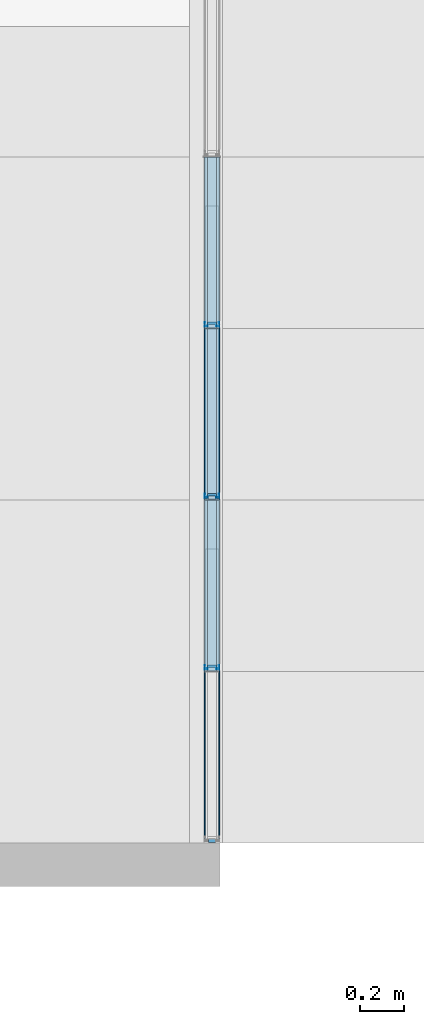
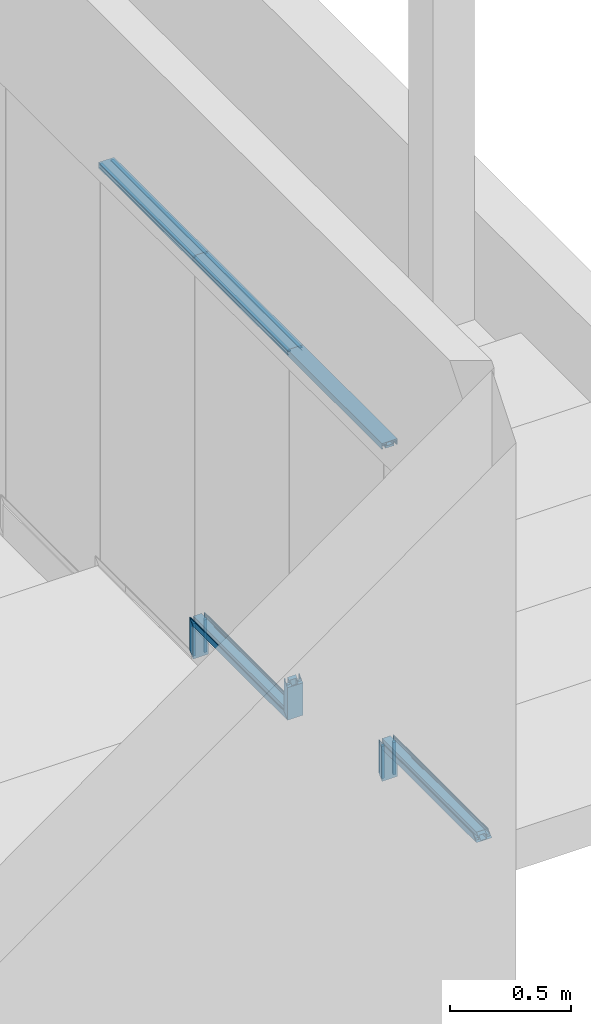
# One storey, part 21 of 65: 16 building element parts, 9 elements without a shape of their own.
"""IFC2X3 building model written with IfcOpenShell, lengths in millimetres."""

from ifc_helpers import new_model, entity, si_unit, converted_unit, derived_unit, money_unit, direction, frame, origin_with_axes, place, context, subcontext, project, spatial, faceted_brep, source, transform, mapped, material, type_object, element, aggregate, save


model = new_model("IFC2X3")

# Units and contexts
model_context = context("Model", 3, precision=0.01, world=origin_with_axes(), true_north=direction((0.0, 1.0)))
body_context = subcontext(model_context, "Body", "Model", "MODEL_VIEW")
ifc_project = project(units=[si_unit("LENGTHUNIT", "METRE", prefix="MILLI"), si_unit("AREAUNIT", "SQUARE_METRE"), si_unit("VOLUMEUNIT", "CUBIC_METRE"), converted_unit("PLANEANGLEUNIT", "DEGREE", entity("IfcPlaneAngleMeasure", 0.0174532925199), si_unit("PLANEANGLEUNIT", "RADIAN"), dimensions=[0, 0, 0, 0, 0, 0, 0]), si_unit("SOLIDANGLEUNIT", "STERADIAN"), money_unit("EUR"), converted_unit("TIMEUNIT", "Year", entity("IfcTimeMeasure", 31556926.0), si_unit("TIMEUNIT", "SECOND"), dimensions=[0, 0, 1, 0, 0, 0, 0]), si_unit("MASSUNIT", "GRAM", prefix="KILO"), si_unit("THERMODYNAMICTEMPERATUREUNIT", "DEGREE_CELSIUS"), si_unit("LUMINOUSINTENSITYUNIT", "LUMEN"), si_unit("ENERGYUNIT", "JOULE", prefix="MEGA"), derived_unit("THERMALCONDUCTANCEUNIT", [(si_unit("POWERUNIT", "WATT"), 1), (si_unit("LENGTHUNIT", "METRE"), -1), (si_unit("THERMODYNAMICTEMPERATUREUNIT", "KELVIN"), -1)]), derived_unit("SPECIFICHEATCAPACITYUNIT", [(si_unit("ENERGYUNIT", "JOULE"), 1), (si_unit("MASSUNIT", "GRAM", prefix="KILO"), -1), (si_unit("THERMODYNAMICTEMPERATUREUNIT", "KELVIN"), -1)]), derived_unit("MASSDENSITYUNIT", [(si_unit("MASSUNIT", "GRAM", prefix="KILO"), 1), (si_unit("VOLUMEUNIT", "CUBIC_METRE"), -1)])], contexts=[model_context])

# Site, building, storey
site_placement = place(None, origin_with_axes())
site = spatial("IfcSite", under=ifc_project, at=site_placement, Name="Puškini 31, Narva", CompositionType="ELEMENT")
building_placement = place(site_placement, origin_with_axes())
building = spatial("IfcBuilding", under=site, at=building_placement, Name="Narva Riigigümnaasium", CompositionType="ELEMENT")
storey_placement = place(building_placement, frame((0.0, 0.0, -1320.0), z_axis=(0.0, 0.0, 1.0), x_axis=(1.0, 0.0, 0.0)))
storey = spatial("IfcBuildingStorey", under=building, at=storey_placement, Name="1.korrus -1.32", CompositionType="ELEMENT", Elevation=-1320.0)

# Curtain wall, members, building element parts
curtain_wall_type = type_object("IfcCurtainWallType", Name="Curtain Wall Type", PredefinedType="NOTDEFINED")
curtain_wall_placement = place(storey_placement, frame((30362.9999948, 159591.499992, 330.0), z_axis=(0.0, 0.0, 1.0), x_axis=(1.0, 0.0, 0.0)))
curtain_wall = element("IfcCurtainWall", 1, at=curtain_wall_placement, inside=storey, type_object=curtain_wall_type, Name="G-SKLF-03")
member_type = type_object("IfcMemberType", Name="30 x 37", PredefinedType="MULLION")
member_1_placement = place(curtain_wall_placement, frame((0.0, 1957.5, 329.999997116), z_axis=(0.0, 0.0, 1.0), x_axis=(0.0, -1.0, 0.0)))
member_1 = element("IfcMember", 2, at=member_1_placement, type_object=member_type, Name="G-SKLF-88-klaasidevaheline tihend", ObjectType="MULLION")
ifc_material_1 = material(Name="Klaasvill")
shared_shape_1 = source(origin_with_axes(), body_context, "Body", "Brep", [
    faceted_brep([(-7.49999990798, 20.000000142, 7.49999990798), (-7.49999990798, 20.000000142, 172.500004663), (-13.8499999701, 20.000000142, 178.850004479), (-13.8499999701, 20.000000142, 13.8499999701), (-7.49999990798, 34.0161444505, 7.49999990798), (-7.49999990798, 34.0161444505, 172.500004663), (-13.8499999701, 34.0161444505, 178.850004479), (-13.8499999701, 34.0161444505, 13.8499999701)], [[[0, 1, 2, 3]], [[4, 5, 1, 0]], [[2, 1, 5, 6]], [[3, 2, 6, 7]], [[3, 7, 4, 0]], [[7, 6, 5, 4]]]),
    faceted_brep([(-28.7655837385, 33.0385325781, 28.7655837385), (-28.7655837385, 33.0385325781, 193.765587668), (-24.987414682, 34.0161444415, 189.987418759), (-24.987414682, 34.0161444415, 24.987414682), (-28.4955493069, 32.0307503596, 28.4955493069), (-28.4955493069, 32.0307503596, 193.495553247), (-27.75780152, 31.2930025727, 192.757805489), (-26.7500193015, 31.0229681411, 191.75002331), (-25.742237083, 31.2930025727, 190.74224113), (-25.004489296, 32.0307503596, 190.004493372), (-24.7344548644, 33.0385325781, 189.734458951), (-24.7344548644, 33.0385325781, 24.7344548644), (-25.004489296, 32.0307503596, 25.004489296), (-25.742237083, 31.2930025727, 25.742237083), (-26.7500193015, 31.0229681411, 26.7500193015), (-27.75780152, 31.2930025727, 27.75780152)], [[[0, 1, 2, 3]], [[4, 5, 1, 0]], [[2, 1, 5, 6, 7, 8, 9, 10]], [[3, 2, 10, 11]], [[3, 11, 12, 13, 14, 15, 4, 0]], [[15, 6, 5, 4]], [[14, 7, 6, 15]], [[13, 8, 7, 14]], [[12, 9, 8, 13]], [[11, 10, 9, 12]]]),
    faceted_brep([(-13.8499999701, -34.0161445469, 13.8499999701), (-13.8499999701, -34.0161445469, 178.850004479), (-13.8499999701, -19.9999997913, 178.850004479), (-13.8499999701, -19.9999997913, 13.8499999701), (-7.49999990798, -34.0161445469, 7.49999990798), (-7.49999990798, -34.0161445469, 172.500004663), (-7.49999990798, -19.9999997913, 172.500004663), (-7.49999990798, -19.9999997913, 7.49999990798)], [[[0, 1, 2, 3]], [[4, 5, 1, 0]], [[2, 1, 5, 6]], [[3, 2, 6, 7]], [[3, 7, 4, 0]], [[7, 6, 5, 4]]]),
    faceted_brep([(-25.004489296, -32.0307503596, 25.004489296), (-25.004489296, -32.0307503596, 190.004493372), (-24.987414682, -34.0161444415, 189.987418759), (-24.987414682, -34.0161444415, 24.987414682), (-25.742237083, -31.2930025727, 25.742237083), (-25.742237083, -31.2930025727, 190.74224113), (-26.7500193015, -31.0229681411, 191.75002331), (-27.75780152, -31.2930025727, 192.757805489), (-28.4955493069, -32.0307503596, 193.495553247), (-28.7655837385, -33.0385325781, 193.765587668), (-28.5126239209, -34.0161444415, 193.512627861), (-28.5126239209, -34.0161444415, 28.5126239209), (-28.7655837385, -33.0385325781, 28.7655837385), (-28.4955493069, -32.0307503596, 28.4955493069), (-27.75780152, -31.2930025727, 27.75780152), (-26.7500193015, -31.0229681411, 26.7500193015)], [[[0, 1, 2, 3]], [[4, 5, 1, 0]], [[2, 1, 5, 6, 7, 8, 9, 10]], [[3, 2, 10, 11]], [[3, 11, 12, 13, 14, 15, 4, 0]], [[15, 6, 5, 4]], [[14, 7, 6, 15]], [[13, 8, 7, 14]], [[12, 9, 8, 13]], [[11, 10, 9, 12]]]),
])
building_element_part_1_placement = place(member_1_placement, origin_with_axes())
building_element_part_1 = element("IfcBuildingElementPart", 3, at=building_element_part_1_placement, material=ifc_material_1, Name="Klaasvill", context=body_context, shape_type="MappedRepresentation", body=[
    mapped(shared_shape_1, transform((0.0, 0.0, 0.0))),
])
member_2_placement = place(curtain_wall_placement, frame((0.0, 1174.5, 495.000032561), z_axis=(0.0, 0.0, 1.0), x_axis=(0.0, -1.0, 0.0)))
member_2 = element("IfcMember", 4, at=member_2_placement, type_object=member_type, Name="G-SKLF-89-klaasidevaheline tihend", ObjectType="MULLION")
building_element_part_2_placement = place(member_2_placement, origin_with_axes())
building_element_part_2 = element("IfcBuildingElementPart", 5, at=building_element_part_2_placement, material=ifc_material_1, Name="Klaasvill", context=body_context, shape_type="MappedRepresentation", body=[
    mapped(shared_shape_1, transform((0.0, 0.0, 0.0))),
])
member_3_placement = place(curtain_wall_placement, frame((0.0, 391.5, 660.000068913), z_axis=(0.0, 0.0, 1.0), x_axis=(0.0, -1.0, 0.0)))
member_3 = element("IfcMember", 6, at=member_3_placement, type_object=member_type, Name="G-SKLF-90-klaasidevaheline tihend", ObjectType="MULLION")
building_element_part_3_placement = place(member_3_placement, origin_with_axes())
building_element_part_3 = element("IfcBuildingElementPart", 7, at=building_element_part_3_placement, material=ifc_material_1, Name="Klaasvill", context=body_context, shape_type="MappedRepresentation", body=[
    mapped(shared_shape_1, transform((0.0, 0.0, 0.0))),
])
ifc_material_2 = material(Name="Teras RAL7012")
shared_shape_2 = source(origin_with_axes(), body_context, "Body", "Brep", [
    faceted_brep([(-29.6000001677, -17.0000000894, 29.6000001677), (-29.6000001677, -17.0000000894, 194.600004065), (-29.6000001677, 17.0000000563, 194.600004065), (-29.6000001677, 17.0000000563, 29.6000001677), (3.28335792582e-07, -17.0000000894, -3.28335796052e-07), (3.28335792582e-07, -17.0000000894, 165.000004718), (3.28335792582e-07, 17.0000000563, 165.000004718), (-1.99999958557, -15.0000001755, 167.000004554), (-18.8000001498, -15.0000001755, 183.800004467), (-18.8000001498, 15.0000001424, 183.800004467), (-1.99999958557, 15.0000001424, 167.000004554), (3.28335792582e-07, 17.0000000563, -3.28335799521e-07), (-1.99999958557, -15.0000001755, 1.99999958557), (-1.99999958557, 15.0000001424, 1.99999958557), (-18.8000001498, 15.0000001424, 18.8000001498), (-18.8000001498, -15.0000001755, 18.8000001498)], [[[0, 1, 2, 3]], [[4, 5, 1, 0]], [[2, 1, 5, 6], [7, 8, 9, 10]], [[3, 2, 6, 11]], [[3, 11, 4, 0], [12, 13, 14, 15]], [[11, 6, 5, 4]], [[15, 8, 7, 12]], [[14, 9, 8, 15]], [[13, 10, 9, 14]], [[12, 7, 10, 13]]]),
    faceted_brep([(-29.6000001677, 17.0000000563, 29.6000001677), (-29.6000001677, 17.0000000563, 194.600004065), (-30.0000193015, 17.0, 195.000023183), (-30.0000193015, 17.0, 30.0000193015), (0.0, 17.0, 0.0), (0.0, 17.0, 165.000005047), (-30.0000193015, 20.0, 195.000023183), (0.0, 37.0, 165.000005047), (-30.0000193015, 37.0, 195.000023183), (-30.0000193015, 34.0161444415, 195.000023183), (-28.5126239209, 34.0161444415, 193.512627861), (-24.987414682, 34.0161444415, 189.987418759), (-13.8499999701, 34.0161444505, 178.850004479), (-7.49999999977, 34.0161444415, 172.500004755), (-7.49999999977, 20.0, 172.500004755), (-13.8499999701, 20.000000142, 178.850004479), (-30.0000193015, 20.0, 30.0000193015), (-13.8499999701, 20.000000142, 13.8499999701), (-7.49999999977, 20.0, 7.49999999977), (-7.49999999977, 34.0161444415, 7.49999999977), (-13.8499999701, 34.0161444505, 13.8499999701), (-24.987414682, 34.0161444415, 24.987414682), (-28.5126239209, 34.0161444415, 28.5126239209), (-30.0000193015, 34.0161444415, 30.0000193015), (-30.0000193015, 37.0, 30.0000193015), (0.0, 37.0, 0.0)], [[[0, 1, 2, 3]], [[1, 0, 4, 5]], [[6, 2, 1, 5, 7, 8, 9, 10, 11, 12, 13, 14, 15]], [[3, 2, 6, 16]], [[3, 16, 17, 18, 19, 20, 21, 22, 23, 24, 25, 4, 0]], [[5, 4, 25, 7]], [[24, 8, 7, 25]], [[23, 9, 8, 24]], [[9, 23, 22, 10]], [[21, 11, 10, 22]], [[20, 12, 11, 21]], [[12, 20, 19, 13]], [[18, 14, 13, 19]], [[14, 18, 17, 15]], [[16, 6, 15, 17]]]),
    faceted_brep([(-30.0000193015, -34.0161444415, 30.0000193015), (-30.0000193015, -34.0161444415, 195.000023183), (-28.5126239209, -34.0161444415, 193.512627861), (-28.5126239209, -34.0161444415, 28.5126239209), (-30.0000193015, -37.0, 30.0000193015), (-30.0000193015, -37.0, 195.000023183), (0.0, -37.0, 165.000005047), (0.0, -17.0, 165.000005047), (-29.6000001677, -17.0000000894, 194.600004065), (-30.0000193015, -17.0, 195.000023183), (-30.0000193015, -20.0, 195.000023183), (-13.8499999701, -19.9999997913, 178.850004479), (-7.49999999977, -20.0, 172.500004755), (-7.49999999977, -34.0161444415, 172.500004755), (-13.8499999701, -34.0161445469, 178.850004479), (-24.987414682, -34.0161444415, 189.987418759), (-24.987414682, -34.0161444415, 24.987414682), (-13.8499999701, -34.0161445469, 13.8499999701), (-7.49999999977, -34.0161444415, 7.49999999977), (-7.49999999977, -20.0, 7.49999999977), (-13.8499999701, -19.9999997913, 13.8499999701), (-30.0000193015, -20.0, 30.0000193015), (-30.0000193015, -17.0, 30.0000193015), (-29.6000001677, -17.0000000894, 29.6000001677), (0.0, -17.0, 0.0), (0.0, -37.0, 0.0)], [[[0, 1, 2, 3]], [[4, 5, 1, 0]], [[1, 5, 6, 7, 8, 9, 10, 11, 12, 13, 14, 15, 2]], [[15, 16, 3, 2]], [[4, 0, 3, 16, 17, 18, 19, 20, 21, 22, 23, 24, 25]], [[5, 4, 25, 6]], [[6, 25, 24, 7]], [[23, 8, 7, 24]], [[8, 23, 22, 9]], [[21, 10, 9, 22]], [[10, 21, 20, 11]], [[19, 12, 11, 20]], [[18, 13, 12, 19]], [[13, 18, 17, 14]], [[14, 17, 16, 15]]]),
])
building_element_part_4_placement = place(member_1_placement, origin_with_axes())
building_element_part_4 = element("IfcBuildingElementPart", 8, at=building_element_part_4_placement, material=ifc_material_2, Name="Teras RAL7012", context=body_context, shape_type="MappedRepresentation", body=[
    mapped(shared_shape_2, transform((0.0, 0.0, 0.0))),
])
aggregate(member_1, [building_element_part_1, building_element_part_4])
building_element_part_5_placement = place(member_2_placement, origin_with_axes())
building_element_part_5 = element("IfcBuildingElementPart", 9, at=building_element_part_5_placement, material=ifc_material_2, Name="Teras RAL7012", context=body_context, shape_type="MappedRepresentation", body=[
    mapped(shared_shape_2, transform((0.0, 0.0, 0.0))),
])
aggregate(member_2, [building_element_part_2, building_element_part_5])
building_element_part_6_placement = place(member_3_placement, origin_with_axes())
building_element_part_6 = element("IfcBuildingElementPart", 10, at=building_element_part_6_placement, material=ifc_material_2, Name="Teras RAL7012", context=body_context, shape_type="MappedRepresentation", body=[
    mapped(shared_shape_2, transform((0.0, 0.0, 0.0))),
])
aggregate(member_3, [building_element_part_3, building_element_part_6])
member_4_placement = place(curtain_wall_placement, frame((0.0, 1174.5, 2369.99991755), z_axis=(0.0, -1.0, 0.0), x_axis=(0.0, 0.0, -1.0)))
member_4 = element("IfcMember", 11, at=member_4_placement, type_object=member_type, Name="G-SKLF-29-raam", ObjectType="MULLION")
shared_shape_3 = source(origin_with_axes(), body_context, "Body", "Brep", [
    faceted_brep([(7.49999990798, 20.000000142, -1.39836550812e-07), (13.8499999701, 20.000000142, -1.39836550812e-07), (13.8499999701, 20.000000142, 783.000000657), (7.49999990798, 20.000000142, 783.000000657), (7.49999990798, 34.0161444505, -1.39836550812e-07), (13.8499999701, 34.0161444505, -1.39836550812e-07), (13.8499999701, 34.0161444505, 783.000000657), (7.49999990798, 34.0161444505, 783.000000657)], [[[0, 1, 2, 3]], [[0, 4, 5, 1]], [[1, 5, 6, 2]], [[3, 2, 6, 7]], [[4, 0, 3, 7]], [[5, 4, 7, 6]]]),
    faceted_brep([(24.987414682, 34.0161444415, -1.39836550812e-07), (25.004489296, 32.0307503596, -1.39836550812e-07), (25.004489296, 32.0307503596, 783.000000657), (24.987414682, 34.0161444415, 783.000000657), (28.5126239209, 34.0161444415, -1.39836550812e-07), (28.7655837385, 33.0385325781, -1.39836550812e-07), (28.4955493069, 32.0307503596, -1.39836550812e-07), (27.75780152, 31.2930025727, -1.39836550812e-07), (26.7500193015, 31.0229681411, -1.39836550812e-07), (25.742237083, 31.2930025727, -1.39836550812e-07), (25.742237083, 31.2930025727, 783.000000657), (26.7500193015, 31.0229681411, 783.000000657), (27.75780152, 31.2930025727, 783.000000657), (28.4955493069, 32.0307503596, 783.000000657), (28.7655837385, 33.0385325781, 783.000000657), (28.5126239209, 34.0161444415, 783.000000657)], [[[0, 1, 2, 3]], [[0, 4, 5, 6, 7, 8, 9, 1]], [[1, 9, 10, 2]], [[3, 2, 10, 11, 12, 13, 14, 15]], [[4, 0, 3, 15]], [[5, 4, 15, 14]], [[6, 5, 14, 13]], [[7, 6, 13, 12]], [[8, 7, 12, 11]], [[9, 8, 11, 10]]]),
    faceted_brep([(7.49999990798, -19.9999997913, -1.39836550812e-07), (7.49999990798, -34.0161445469, -1.39836550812e-07), (7.49999990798, -34.0161445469, 783.000000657), (7.49999990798, -19.9999997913, 783.000000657), (13.8499999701, -19.9999997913, -1.39836550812e-07), (13.8499999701, -34.0161445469, -1.39836550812e-07), (13.8499999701, -34.0161445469, 783.000000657), (13.8499999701, -19.9999997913, 783.000000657)], [[[0, 1, 2, 3]], [[0, 4, 5, 1]], [[1, 5, 6, 2]], [[3, 2, 6, 7]], [[4, 0, 3, 7]], [[5, 4, 7, 6]]]),
    faceted_brep([(25.004489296, -32.0307503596, -1.39836550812e-07), (24.987414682, -34.0161444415, -1.39836550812e-07), (24.987414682, -34.0161444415, 783.000000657), (25.004489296, -32.0307503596, 783.000000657), (25.742237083, -31.2930025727, -1.39836550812e-07), (26.7500193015, -31.0229681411, -1.39836550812e-07), (27.75780152, -31.2930025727, -1.39836550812e-07), (28.4955493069, -32.0307503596, -1.39836550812e-07), (28.7655837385, -33.0385325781, -1.39836550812e-07), (28.5126239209, -34.0161444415, -1.39836550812e-07), (28.5126239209, -34.0161444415, 783.000000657), (28.7655837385, -33.0385325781, 783.000000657), (28.4955493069, -32.0307503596, 783.000000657), (27.75780152, -31.2930025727, 783.000000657), (26.7500193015, -31.0229681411, 783.000000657), (25.742237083, -31.2930025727, 783.000000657)], [[[0, 1, 2, 3]], [[0, 4, 5, 6, 7, 8, 9, 1]], [[1, 9, 10, 2]], [[3, 2, 10, 11, 12, 13, 14, 15]], [[4, 0, 3, 15]], [[5, 4, 15, 14]], [[6, 5, 14, 13]], [[7, 6, 13, 12]], [[8, 7, 12, 11]], [[9, 8, 11, 10]]]),
])
building_element_part_7_placement = place(member_4_placement, origin_with_axes())
building_element_part_7 = element("IfcBuildingElementPart", 12, at=building_element_part_7_placement, material=ifc_material_1, Name="Klaasvill", context=body_context, shape_type="MappedRepresentation", body=[
    mapped(shared_shape_3, transform((0.0, 0.0, 0.0))),
])
member_5_placement = place(curtain_wall_placement, frame((0.0, 1957.5, 2369.99991025), z_axis=(0.0, -1.0, 9.32243185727e-09), x_axis=(0.0, -9.32243185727e-09, -1.0)))
member_5 = element("IfcMember", 13, at=member_5_placement, type_object=member_type, Name="G-SKLF-28-raam", ObjectType="MULLION")
building_element_part_8_placement = place(member_5_placement, origin_with_axes())
building_element_part_8 = element("IfcBuildingElementPart", 14, at=building_element_part_8_placement, material=ifc_material_1, Name="Klaasvill", context=body_context, shape_type="MappedRepresentation", body=[
    mapped(shared_shape_3, transform((0.0, 0.0, 0.0))),
])
member_6_placement = place(curtain_wall_placement, frame((0.0, 2740.5, 2369.99991025), z_axis=(0.0, -1.0, 0.0), x_axis=(0.0, 0.0, -1.0)))
member_6 = element("IfcMember", 15, at=member_6_placement, type_object=member_type, Name="G-SKLF-27-raam", ObjectType="MULLION")
building_element_part_9_placement = place(member_6_placement, origin_with_axes())
building_element_part_9 = element("IfcBuildingElementPart", 16, at=building_element_part_9_placement, material=ifc_material_1, Name="Klaasvill", context=body_context, shape_type="MappedRepresentation", body=[
    mapped(shared_shape_3, transform((0.0, 0.0, 0.0))),
])
shared_shape_4 = source(origin_with_axes(), body_context, "Body", "Brep", [
    faceted_brep([(0.0, -17.0000000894, -1.39836550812e-07), (29.5999996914, -17.0000000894, -1.39836550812e-07), (29.5999996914, -17.0000000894, 783.000000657), (0.0, -17.0000000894, 783.000000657), (0.0, 17.0000000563, -1.39836550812e-07), (29.5999996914, 17.0000000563, -1.39836550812e-07), (1.9999999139, 15.0000001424, -1.39836550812e-07), (1.9999999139, -15.0000001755, -1.39836550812e-07), (18.7999996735, -15.0000001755, -1.39836550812e-07), (18.7999996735, 15.0000001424, -1.39836550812e-07), (29.5999996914, 17.0000000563, 783.000000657), (0.0, 17.0000000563, 783.000000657), (1.9999999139, 15.0000001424, 783.000000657), (18.7999996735, 15.0000001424, 783.000000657), (18.7999996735, -15.0000001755, 783.000000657), (1.9999999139, -15.0000001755, 783.000000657)], [[[0, 1, 2, 3]], [[0, 4, 5, 1], [6, 7, 8, 9]], [[1, 5, 10, 2]], [[3, 2, 10, 11], [12, 13, 14, 15]], [[4, 0, 3, 11]], [[5, 4, 11, 10]], [[7, 6, 12, 15]], [[8, 7, 15, 14]], [[9, 8, 14, 13]], [[6, 9, 13, 12]]]),
    faceted_brep([(0.0, 17.0, -1.39836550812e-07), (29.5999996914, 17.0000000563, -1.39836550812e-07), (29.5999996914, 17.0000000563, 783.000000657), (0.0, 17.0, 783.000000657), (0.0, 37.0, -1.39836550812e-07), (30.0000193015, 37.0, -1.39836550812e-07), (30.0000193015, 34.0161444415, -1.39836550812e-07), (28.5126239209, 34.0161444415, -1.39836550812e-07), (24.987414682, 34.0161444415, -1.39836550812e-07), (13.8499999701, 34.0161444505, -1.39836550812e-07), (7.49999999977, 34.0161444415, -1.39836550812e-07), (7.49999999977, 20.0, -1.39836550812e-07), (13.8499999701, 20.000000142, -1.39836550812e-07), (30.0000193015, 20.0, -1.39836550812e-07), (30.0000193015, 17.0, -1.39836550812e-07), (30.0000193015, 17.0, 783.000000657), (30.0000193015, 20.0, 783.000000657), (13.8499999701, 20.000000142, 783.000000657), (7.49999999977, 20.0, 783.000000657), (7.49999999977, 34.0161444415, 783.000000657), (13.8499999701, 34.0161444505, 783.000000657), (24.987414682, 34.0161444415, 783.000000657), (28.5126239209, 34.0161444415, 783.000000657), (30.0000193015, 34.0161444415, 783.000000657), (30.0000193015, 37.0, 783.000000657), (0.0, 37.0, 783.000000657)], [[[0, 1, 2, 3]], [[0, 4, 5, 6, 7, 8, 9, 10, 11, 12, 13, 14, 1]], [[1, 14, 15, 2]], [[3, 2, 15, 16, 17, 18, 19, 20, 21, 22, 23, 24, 25]], [[4, 0, 3, 25]], [[5, 4, 25, 24]], [[6, 5, 24, 23]], [[7, 6, 23, 22]], [[8, 7, 22, 21]], [[9, 8, 21, 20]], [[10, 9, 20, 19]], [[11, 10, 19, 18]], [[12, 11, 18, 17]], [[13, 12, 17, 16]], [[14, 13, 16, 15]]]),
    faceted_brep([(0.0, -17.0, -1.39836550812e-07), (0.0, -37.0, -1.39836550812e-07), (0.0, -37.0, 783.000000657), (0.0, -17.0, 783.000000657), (29.5999996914, -17.0000000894, -1.39836550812e-07), (30.0000193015, -17.0, -1.39836550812e-07), (30.0000193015, -20.0, -1.39836550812e-07), (13.8499999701, -19.9999997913, -1.39836550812e-07), (7.49999999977, -20.0, -1.39836550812e-07), (7.49999999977, -34.0161444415, -1.39836550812e-07), (13.8499999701, -34.0161445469, -1.39836550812e-07), (24.987414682, -34.0161444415, -1.39836550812e-07), (28.5126239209, -34.0161444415, -1.39836550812e-07), (30.0000193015, -34.0161444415, -1.39836550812e-07), (30.0000193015, -37.0, -1.39836550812e-07), (30.0000193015, -37.0, 783.000000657), (30.0000193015, -34.0161444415, 783.000000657), (28.5126239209, -34.0161444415, 783.000000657), (24.987414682, -34.0161444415, 783.000000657), (13.8499999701, -34.0161445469, 783.000000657), (7.49999999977, -34.0161444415, 783.000000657), (7.49999999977, -20.0, 783.000000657), (13.8499999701, -19.9999997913, 783.000000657), (30.0000193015, -20.0, 783.000000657), (30.0000193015, -17.0, 783.000000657), (29.5999996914, -17.0000000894, 783.000000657)], [[[0, 1, 2, 3]], [[0, 4, 5, 6, 7, 8, 9, 10, 11, 12, 13, 14, 1]], [[1, 14, 15, 2]], [[3, 2, 15, 16, 17, 18, 19, 20, 21, 22, 23, 24, 25]], [[4, 0, 3, 25]], [[5, 4, 25, 24]], [[6, 5, 24, 23]], [[7, 6, 23, 22]], [[8, 7, 22, 21]], [[9, 8, 21, 20]], [[10, 9, 20, 19]], [[11, 10, 19, 18]], [[12, 11, 18, 17]], [[13, 12, 17, 16]], [[14, 13, 16, 15]]]),
])
building_element_part_10_placement = place(member_4_placement, origin_with_axes())
building_element_part_10 = element("IfcBuildingElementPart", 17, at=building_element_part_10_placement, material=ifc_material_2, Name="Teras RAL7012", context=body_context, shape_type="MappedRepresentation", body=[
    mapped(shared_shape_4, transform((0.0, 0.0, 0.0))),
])
aggregate(member_4, [building_element_part_7, building_element_part_10])
building_element_part_11_placement = place(member_5_placement, origin_with_axes())
building_element_part_11 = element("IfcBuildingElementPart", 18, at=building_element_part_11_placement, material=ifc_material_2, Name="Teras RAL7012", context=body_context, shape_type="MappedRepresentation", body=[
    mapped(shared_shape_4, transform((0.0, 0.0, 0.0))),
])
aggregate(member_5, [building_element_part_8, building_element_part_11])
building_element_part_12_placement = place(member_6_placement, origin_with_axes())
building_element_part_12 = element("IfcBuildingElementPart", 19, at=building_element_part_12_placement, material=ifc_material_2, Name="Teras RAL7012", context=body_context, shape_type="MappedRepresentation", body=[
    mapped(shared_shape_4, transform((0.0, 0.0, 0.0))),
])
aggregate(member_6, [building_element_part_9, building_element_part_12])
member_7_placement = place(curtain_wall_placement, frame((0.0, 1174.5, 495.000032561), z_axis=(0.0, 1.0, -3.88229842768e-08), x_axis=(0.0, 3.88229842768e-08, 1.0)))
member_7 = element("IfcMember", 20, at=member_7_placement, type_object=member_type, Name="G-SKLF-40-raam", ObjectType="MULLION")
shared_shape_5 = source(origin_with_axes(), body_context, "Body", "Brep", [
    faceted_brep([(13.8499999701, 20.000000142, 13.8499994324), (13.8499999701, 20.000000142, 796.849999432), (7.49999990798, 20.000000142, 790.499999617), (7.49999990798, 20.000000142, 7.49999961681), (13.8499999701, 34.0161444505, 13.8499994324), (13.8499999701, 34.0161444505, 796.849999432), (7.49999990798, 34.0161444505, 790.499999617), (7.49999990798, 34.0161444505, 7.49999961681)], [[[0, 1, 2, 3]], [[4, 5, 1, 0]], [[2, 1, 5, 6]], [[3, 2, 6, 7]], [[3, 7, 4, 0]], [[7, 6, 5, 4]]]),
    faceted_brep([(25.004489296, 32.0307503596, 25.0044883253), (25.004489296, 32.0307503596, 808.004488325), (24.987414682, 34.0161444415, 807.987413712), (24.987414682, 34.0161444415, 24.987413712), (25.742237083, 31.2930025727, 25.7422360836), (25.742237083, 31.2930025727, 808.742236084), (26.7500193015, 31.0229681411, 809.750018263), (27.75780152, 31.2930025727, 810.757800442), (28.4955493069, 32.0307503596, 811.495548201), (28.7655837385, 33.0385325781, 811.765582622), (28.5126239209, 34.0161444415, 811.512622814), (28.5126239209, 34.0161444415, 28.512622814), (28.7655837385, 33.0385325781, 28.7655826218), (28.4955493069, 32.0307503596, 28.4955482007), (27.75780152, 31.2930025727, 27.7578004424), (26.7500193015, 31.0229681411, 26.750018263)], [[[0, 1, 2, 3]], [[4, 5, 1, 0]], [[2, 1, 5, 6, 7, 8, 9, 10]], [[3, 2, 10, 11]], [[3, 11, 12, 13, 14, 15, 4, 0]], [[15, 6, 5, 4]], [[14, 7, 6, 15]], [[13, 8, 7, 14]], [[12, 9, 8, 13]], [[11, 10, 9, 12]]]),
    faceted_brep([(7.49999990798, -34.0161445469, 7.49999961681), (7.49999990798, -34.0161445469, 790.499999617), (7.49999990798, -19.9999997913, 790.499999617), (7.49999990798, -19.9999997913, 7.49999961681), (13.8499999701, -34.0161445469, 13.8499994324), (13.8499999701, -34.0161445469, 796.849999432), (13.8499999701, -19.9999997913, 796.849999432), (13.8499999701, -19.9999997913, 13.8499994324)], [[[0, 1, 2, 3]], [[4, 5, 1, 0]], [[2, 1, 5, 6]], [[3, 2, 6, 7]], [[3, 7, 4, 0]], [[7, 6, 5, 4]]]),
    faceted_brep([(24.987414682, -34.0161444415, 24.987413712), (24.987414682, -34.0161444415, 807.987413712), (25.004489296, -32.0307503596, 808.004488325), (25.004489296, -32.0307503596, 25.0044883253), (28.5126239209, -34.0161444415, 28.512622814), (28.5126239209, -34.0161444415, 811.512622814), (28.7655837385, -33.0385325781, 811.765582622), (28.4955493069, -32.0307503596, 811.495548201), (27.75780152, -31.2930025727, 810.757800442), (26.7500193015, -31.0229681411, 809.750018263), (25.742237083, -31.2930025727, 808.742236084), (25.742237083, -31.2930025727, 25.7422360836), (26.7500193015, -31.0229681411, 26.750018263), (27.75780152, -31.2930025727, 27.7578004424), (28.4955493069, -32.0307503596, 28.4955482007), (28.7655837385, -33.0385325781, 28.7655826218)], [[[0, 1, 2, 3]], [[4, 5, 1, 0]], [[2, 1, 5, 6, 7, 8, 9, 10]], [[3, 2, 10, 11]], [[3, 11, 12, 13, 14, 15, 4, 0]], [[15, 6, 5, 4]], [[14, 7, 6, 15]], [[13, 8, 7, 14]], [[12, 9, 8, 13]], [[11, 10, 9, 12]]]),
])
building_element_part_13_placement = place(member_7_placement, origin_with_axes())
building_element_part_13 = element("IfcBuildingElementPart", 21, at=building_element_part_13_placement, material=ifc_material_1, Name="Klaasvill", context=body_context, shape_type="MappedRepresentation", body=[
    mapped(shared_shape_5, transform((0.0, 0.0, 0.0))),
])
member_8_placement = place(curtain_wall_placement, frame((0.0, -391.5, 824.999988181), z_axis=(0.0, 1.0, 0.0), x_axis=(0.0, 0.0, 1.0)))
member_8 = element("IfcMember", 22, at=member_8_placement, type_object=member_type, Name="G-SKLF-42-raam", ObjectType="MULLION")
aggregate(curtain_wall, [member_4, member_5, member_6, member_7, member_1, member_2, member_8, member_3])
building_element_part_14_placement = place(member_8_placement, origin_with_axes())
building_element_part_14 = element("IfcBuildingElementPart", 23, at=building_element_part_14_placement, material=ifc_material_1, Name="Klaasvill", context=body_context, shape_type="MappedRepresentation", body=[
    mapped(shared_shape_5, transform((0.0, 0.0, 0.0))),
])
shared_shape_6 = source(origin_with_axes(), body_context, "Body", "Brep", [
    faceted_brep([(29.5999996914, -17.0000000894, 29.5999985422), (29.5999996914, -17.0000000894, 812.599998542), (0.0, -17.0000000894, 783.0), (0.0, -17.0000000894, 0.0), (29.5999996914, 17.0000000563, 29.5999985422), (29.5999996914, 17.0000000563, 812.599998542), (0.0, 17.0000000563, 783.0), (1.9999999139, 15.0000001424, 784.999999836), (18.7999996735, 15.0000001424, 801.799998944), (18.7999996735, -15.0000001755, 801.799998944), (1.9999999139, -15.0000001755, 784.999999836), (0.0, 17.0000000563, 0.0), (1.9999999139, 15.0000001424, 1.99999983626), (1.9999999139, -15.0000001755, 1.99999983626), (18.7999996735, -15.0000001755, 18.7999989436), (18.7999996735, 15.0000001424, 18.7999989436)], [[[0, 1, 2, 3]], [[4, 5, 1, 0]], [[2, 1, 5, 6], [7, 8, 9, 10]], [[3, 2, 6, 11]], [[3, 11, 4, 0], [12, 13, 14, 15]], [[11, 6, 5, 4]], [[15, 8, 7, 12]], [[14, 9, 8, 15]], [[13, 10, 9, 14]], [[12, 7, 10, 13]]]),
    faceted_brep([(0.0, 17.0, 0.0), (0.0, 17.0, 783.0), (0.0, 37.0, 783.0), (0.0, 37.0, 0.0), (29.5999996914, 17.0000000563, 29.5999985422), (29.5999996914, 17.0000000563, 812.599998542), (30.0000193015, 17.0, 813.000018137), (30.0000193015, 20.0, 813.000018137), (13.8499999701, 20.000000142, 796.849999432), (7.49999999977, 20.0, 790.499999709), (7.49999999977, 34.0161444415, 790.499999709), (13.8499999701, 34.0161444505, 796.849999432), (24.987414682, 34.0161444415, 807.987413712), (28.5126239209, 34.0161444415, 811.512622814), (30.0000193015, 34.0161444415, 813.000018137), (30.0000193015, 37.0, 813.000018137), (30.0000193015, 37.0, 30.0000181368), (30.0000193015, 34.0161444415, 30.0000181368), (28.5126239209, 34.0161444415, 28.512622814), (24.987414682, 34.0161444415, 24.987413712), (13.8499999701, 34.0161444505, 13.8499994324), (7.49999999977, 34.0161444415, 7.49999970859), (7.49999999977, 20.0, 7.49999970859), (13.8499999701, 20.000000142, 13.8499994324), (30.0000193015, 20.0, 30.0000181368), (30.0000193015, 17.0, 30.0000181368)], [[[0, 1, 2, 3]], [[1, 0, 4, 5]], [[2, 1, 5, 6, 7, 8, 9, 10, 11, 12, 13, 14, 15]], [[3, 2, 15, 16]], [[0, 3, 16, 17, 18, 19, 20, 21, 22, 23, 24, 25, 4]], [[5, 4, 25, 6]], [[6, 25, 24, 7]], [[23, 8, 7, 24]], [[22, 9, 8, 23]], [[9, 22, 21, 10]], [[10, 21, 20, 11]], [[11, 20, 19, 12]], [[12, 19, 18, 13]], [[13, 18, 17, 14]], [[15, 14, 17, 16]]]),
    faceted_brep([(0.0, -37.0, 0.0), (0.0, -37.0, 783.0), (0.0, -17.0, 783.0), (0.0, -17.0, 0.0), (30.0000193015, -37.0, 30.0000181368), (30.0000193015, -37.0, 813.000018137), (30.0000193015, -34.0161444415, 813.000018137), (28.5126239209, -34.0161444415, 811.512622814), (24.987414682, -34.0161444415, 807.987413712), (13.8499999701, -34.0161445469, 796.849999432), (7.49999999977, -34.0161444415, 790.499999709), (7.49999999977, -20.0, 790.499999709), (13.8499999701, -19.9999997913, 796.849999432), (30.0000193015, -20.0, 813.000018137), (30.0000193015, -17.0, 813.000018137), (29.5999996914, -17.0000000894, 812.599998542), (29.5999996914, -17.0000000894, 29.5999985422), (30.0000193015, -17.0, 30.0000181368), (30.0000193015, -20.0, 30.0000181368), (13.8499999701, -19.9999997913, 13.8499994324), (7.49999999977, -20.0, 7.49999970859), (7.49999999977, -34.0161444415, 7.49999970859), (13.8499999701, -34.0161445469, 13.8499994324), (24.987414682, -34.0161444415, 24.987413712), (28.5126239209, -34.0161444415, 28.512622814), (30.0000193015, -34.0161444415, 30.0000181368)], [[[0, 1, 2, 3]], [[1, 0, 4, 5]], [[2, 1, 5, 6, 7, 8, 9, 10, 11, 12, 13, 14, 15]], [[3, 2, 15, 16]], [[0, 3, 16, 17, 18, 19, 20, 21, 22, 23, 24, 25, 4]], [[5, 4, 25, 6]], [[24, 7, 6, 25]], [[23, 8, 7, 24]], [[22, 9, 8, 23]], [[9, 22, 21, 10]], [[10, 21, 20, 11]], [[11, 20, 19, 12]], [[12, 19, 18, 13]], [[14, 13, 18, 17]], [[16, 15, 14, 17]]]),
])
building_element_part_15_placement = place(member_7_placement, origin_with_axes())
building_element_part_15 = element("IfcBuildingElementPart", 24, at=building_element_part_15_placement, material=ifc_material_2, Name="Teras RAL7012", context=body_context, shape_type="MappedRepresentation", body=[
    mapped(shared_shape_6, transform((0.0, 0.0, 0.0))),
])
aggregate(member_7, [building_element_part_13, building_element_part_15])
building_element_part_16_placement = place(member_8_placement, origin_with_axes())
building_element_part_16 = element("IfcBuildingElementPart", 25, at=building_element_part_16_placement, material=ifc_material_2, Name="Teras RAL7012", context=body_context, shape_type="MappedRepresentation", body=[
    mapped(shared_shape_6, transform((0.0, 0.0, 0.0))),
])
aggregate(member_8, [building_element_part_14, building_element_part_16])

save(model, "model.ifc")
